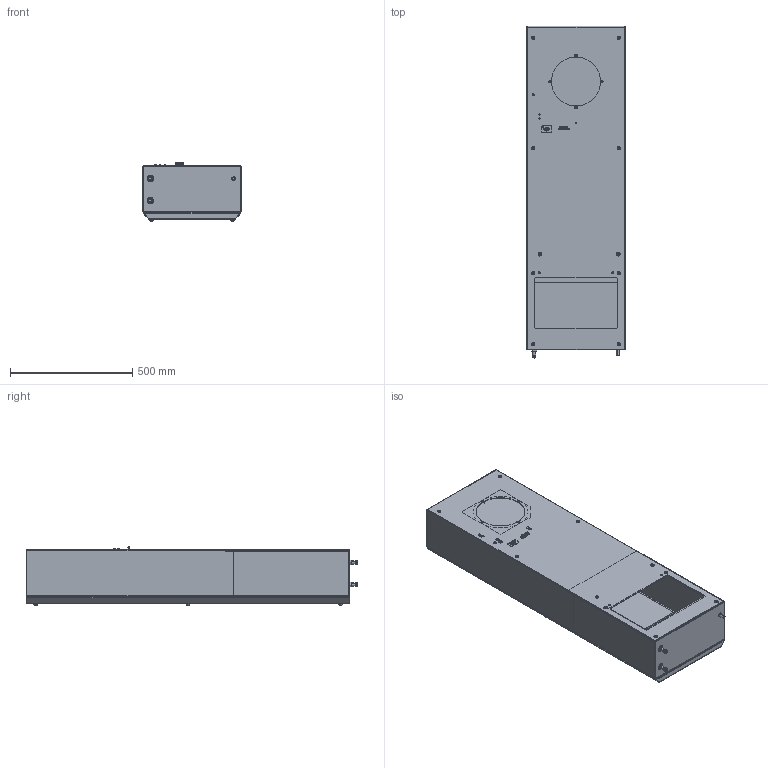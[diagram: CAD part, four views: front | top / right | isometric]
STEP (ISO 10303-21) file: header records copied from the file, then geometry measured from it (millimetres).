
FILE_DESCRIPTION (( 'STEP AP214' ), '1' );
FILE_NAME ('PWS 7332L.STEP', '2014-05-14T09:02:16', ( '' ), ( '' ), 'SwSTEP 2.0', 'SolidWorks 2012', '' );
FILE_SCHEMA (( 'AUTOMOTIVE_DESIGN' ));
Length unit declared in the file: millimetre
Products named in the file (1): PWS 7332L
Bounding box: 401 x 1355.5 x 240.33 mm (x, y, z)
Volume: 6319339.4 mm3; surface area: 5510052.6 mm2
Topology: 75 solids, 75 shells, 2517 faces, 6237 edges, 3981 vertices
Faces by surface type: plane 1487, cylinder 525, cone 210, sphere 146, torus 80, bspline 69
Entity records: 106085 total; most frequent: CARTESIAN_POINT 17367, DIRECTION 12522, ORIENTED_EDGE 12268, EDGE_CURVE 6134, AXIS2_PLACEMENT_3D 4321, VERTEX_POINT 3924, VECTOR 3880, LINE 3880
